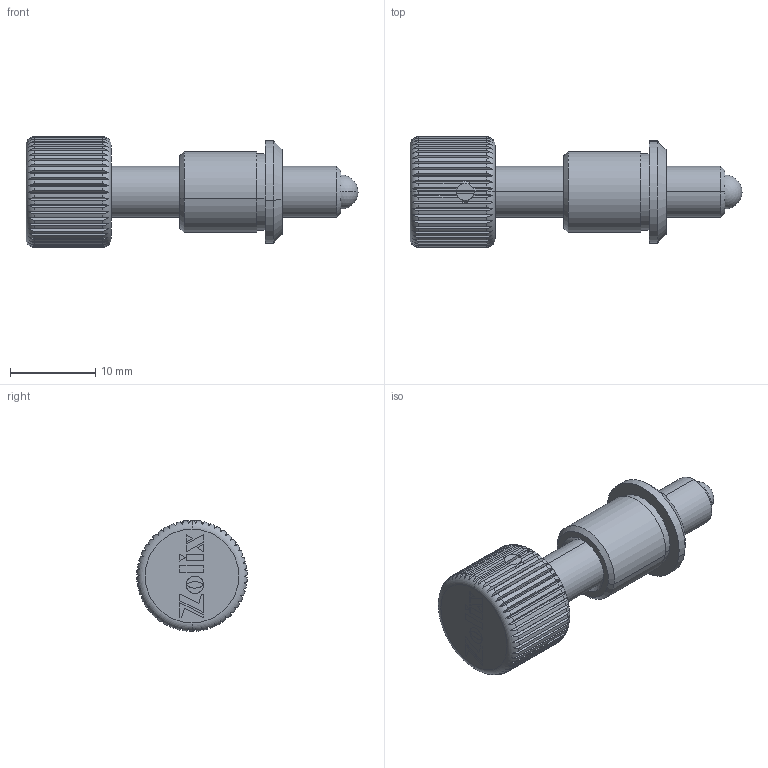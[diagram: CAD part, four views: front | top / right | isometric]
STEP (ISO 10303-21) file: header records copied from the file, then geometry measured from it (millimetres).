
FILE_DESCRIPTION (( 'STEP AP203' ), '1' );
FILE_NAME ('ACFS13-2.step', '2019-05-09T08:53:55', ( '' ), ( '' ), 'SwSTEP 2.0', 'SolidWorks 2016', '' );
FILE_SCHEMA (( 'CONFIG_CONTROL_DESIGN' ));
Length unit declared in the file: millimetre
Products named in the file (1): ACFS13-2
Bounding box: 39 x 13 x 13 mm (x, y, z)
Surface area: 2003.4 mm2 (no closed solid volume)
Topology: 0 solids, 5 shells, 249 faces, 917 edges, 661 vertices
Faces by surface type: plane 165, cylinder 66, cone 12, torus 4, sphere 2
Entity records: 10362 total; most frequent: CARTESIAN_POINT 2930, ORIENTED_EDGE 1558, DIRECTION 1348, EDGE_CURVE 912, VERTEX_POINT 658, LINE 532, VECTOR 532, AXIS2_PLACEMENT_3D 408
